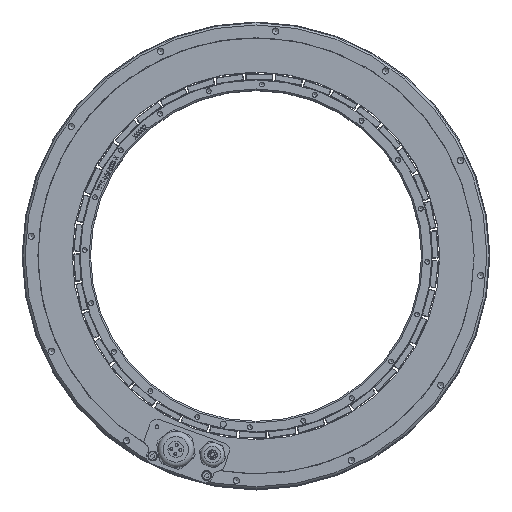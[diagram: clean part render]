
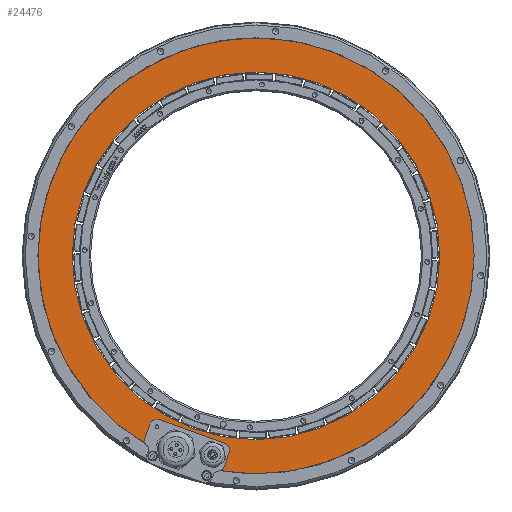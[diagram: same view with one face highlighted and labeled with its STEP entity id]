
A CAD part, top view. The second image highlights one B-rep face of the part: STEP entity #24476.
In plain terms, the highlighted planar face has unit normal (0, 0, 1).
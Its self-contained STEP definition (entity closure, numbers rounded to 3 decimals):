
#1664=PLANE('',#31381);
#3060=CIRCLE('',#31376,122.2);
#3062=CIRCLE('',#31379,145.);
#9700=ORIENTED_EDGE('',*,*,#13020,.T.);
#9701=ORIENTED_EDGE('',*,*,#13022,.F.);
#13020=EDGE_CURVE('',#15080,#15080,#3060,.T.);
#13022=EDGE_CURVE('',#15082,#15082,#3062,.T.);
#15080=VERTEX_POINT('',#47782);
#15082=VERTEX_POINT('',#47787);
#19972=EDGE_LOOP('',(#9700));
#19973=EDGE_LOOP('',(#9701));
#22088=FACE_BOUND('',#19972,.T.);
#22089=FACE_BOUND('',#19973,.T.);
#24476=ADVANCED_FACE('',(#22088,#22089),#1664,.F.);
#31376=AXIS2_PLACEMENT_3D('',#47781,#39024,#39025);
#31379=AXIS2_PLACEMENT_3D('',#47786,#39030,#39031);
#31381=AXIS2_PLACEMENT_3D('',#47790,#39034,#39035);
#39024=DIRECTION('',(0.,0.,-1.));
#39025=DIRECTION('',(1.,0.,0.));
#39030=DIRECTION('',(0.,0.,-1.));
#39031=DIRECTION('',(1.,0.,0.));
#39034=DIRECTION('',(0.,0.,-1.));
#39035=DIRECTION('',(-1.,0.,0.));
#47781=CARTESIAN_POINT('',(0.,0.,15.5));
#47782=CARTESIAN_POINT('',(122.2,0.,15.5));
#47786=CARTESIAN_POINT('',(0.,0.,15.5));
#47787=CARTESIAN_POINT('',(145.,0.,15.5));
#47790=CARTESIAN_POINT('',(0.,0.,15.5));
